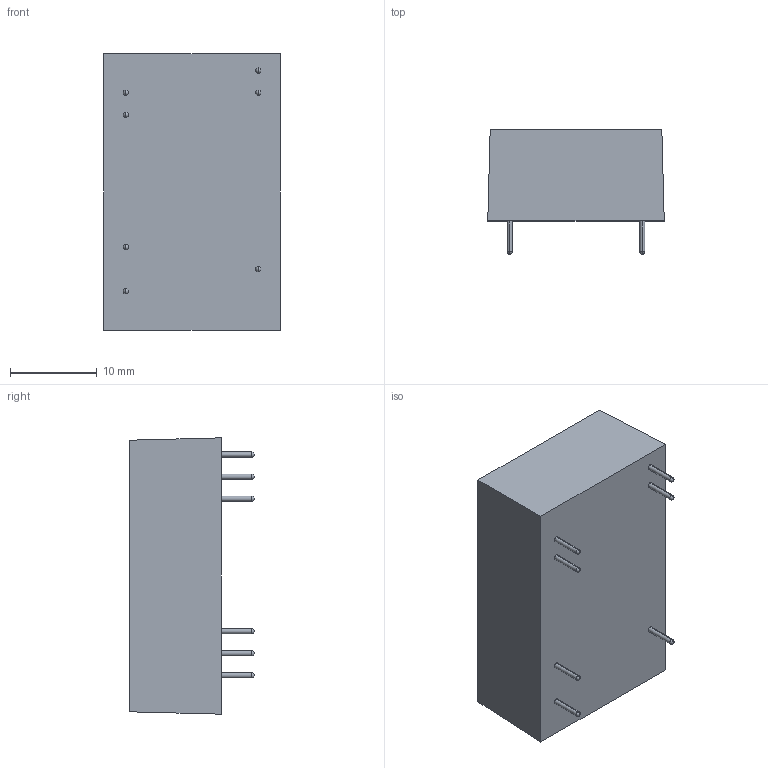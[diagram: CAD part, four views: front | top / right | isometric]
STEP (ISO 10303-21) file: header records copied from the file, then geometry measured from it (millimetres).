
FILE_DESCRIPTION (( 'STEP AP214' ), '1' );
FILE_NAME ('THM 3WI-B4-Single.STEP', '2024-06-03T00:11:00', ( '' ), ( '' ), 'SwSTEP 2.0', 'SolidWorks 2017', '' );
FILE_SCHEMA (( 'AUTOMOTIVE_DESIGN' ));
Length unit declared in the file: millimetre
Products named in the file (1): THM 3WI-B4-Single
Bounding box: 20.3 x 14.3 x 31.8 mm (x, y, z)
Volume: 6636.1 mm3; surface area: 2393.8 mm2
Topology: 1 solids, 1 shells, 34 faces, 96 edges, 57 vertices
Faces by surface type: sphere 14, cylinder 14, plane 6
Entity records: 1152 total; most frequent: DIRECTION 180, CARTESIAN_POINT 146, ORIENTED_EDGE 136, AXIS2_PLACEMENT_3D 77, EDGE_CURVE 68, VERTEX_POINT 43, CIRCLE 42, EDGE_LOOP 41
